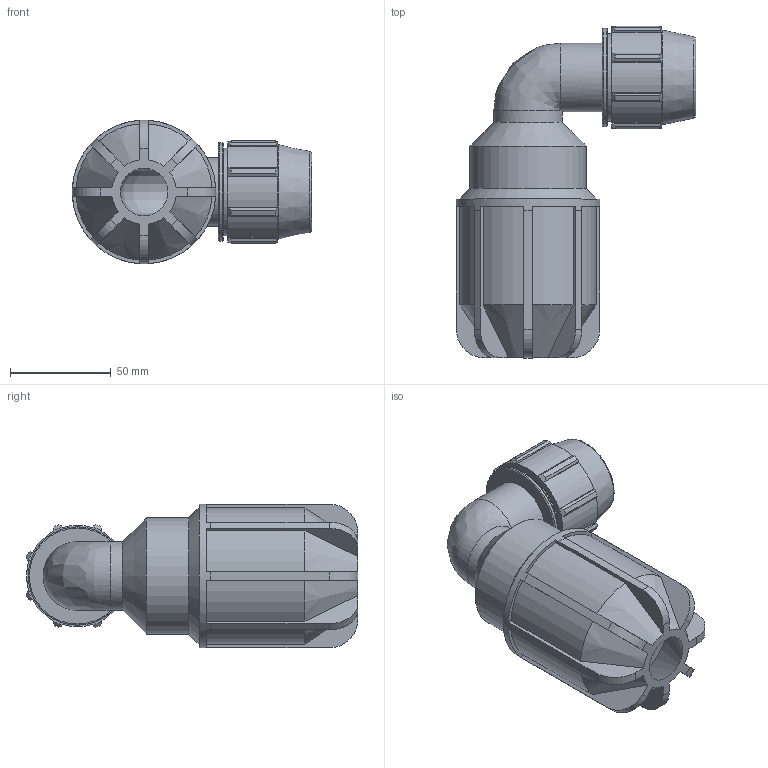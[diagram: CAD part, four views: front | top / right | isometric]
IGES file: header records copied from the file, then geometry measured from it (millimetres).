
Global section: file name: 070570M07027.ipt; native system: Autodesk Inventor 2019; preprocessor: unknown; author: KIM; date: 20210826.124557; units: inch
Bounding box: 118.62 x 164.39 x 71.12 mm (x, y, z)
Volume: 235329.7 mm3; surface area: 73018.5 mm2
Topology: 1 solids, 1 shells, 160 faces, 453 edges, 299 vertices
Faces by surface type: plane 88, cylinder 38, cone 20, revolution 13, bspline 1
Full cylindrical faces by diameter (mm): 33.998 x2, 43.282 x1, 48.692 x1, 57.61 x1, 71.12 x1
